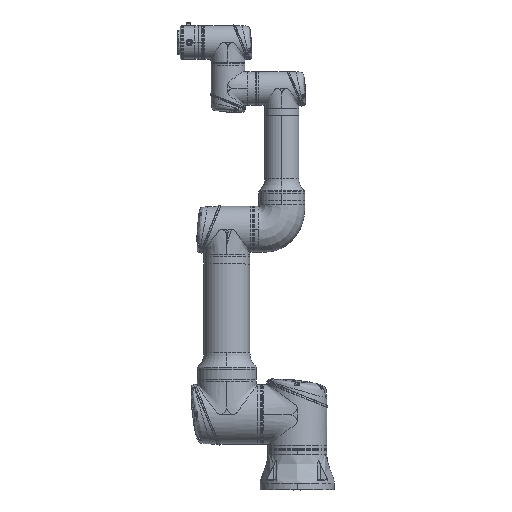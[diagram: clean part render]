
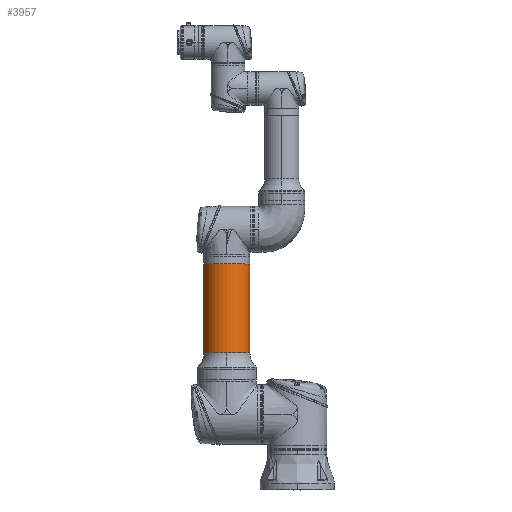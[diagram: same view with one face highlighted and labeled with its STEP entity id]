
A CAD part, top view. The second image highlights one B-rep face of the part: STEP entity #3957.
In plain terms, the highlighted cylindrical face has radius 59 mm (diameter 118 mm), a partial arc.
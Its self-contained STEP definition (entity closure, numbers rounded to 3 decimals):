
#371 = DIRECTION ( 'NONE',  ( 0., 1., 0. ) ) ;
#3957 = ADVANCED_FACE ( 'NONE', ( #207276 ), #347358, .T. ) ;
#7668 = ORIENTED_EDGE ( 'NONE', *, *, #282182, .T. ) ;
#23638 = CARTESIAN_POINT ( 'NONE',  ( 386.1, 0., 0. ) ) ;
#28968 = CARTESIAN_POINT ( 'NONE',  ( 158.463, 0., 0. ) ) ;
#53050 = CARTESIAN_POINT ( 'NONE',  ( 386.1, 0., -59. ) ) ;
#59538 = CIRCLE ( 'NONE', #341512, 59. ) ;
#69003 = DIRECTION ( 'NONE',  ( 0., 1., 0. ) ) ;
#78338 = EDGE_CURVE ( 'NONE', #139094, #423366, #59538, .T. ) ;
#78884 = VERTEX_POINT ( 'NONE', #53050 ) ;
#87270 = CARTESIAN_POINT ( 'NONE',  ( 562.7, 0., -59. ) ) ;
#97656 = DIRECTION ( 'NONE',  ( 1., 0., 0. ) ) ;
#100712 = DIRECTION ( 'NONE',  ( 1., 0., 0. ) ) ;
#105531 = LINE ( 'NONE', #305533, #202263 ) ;
#114733 = AXIS2_PLACEMENT_3D ( 'NONE', #23638, #297709, #398668 ) ;
#133635 = VERTEX_POINT ( 'NONE', #155698 ) ;
#134333 = DIRECTION ( 'NONE',  ( 1., 0., 0. ) ) ;
#139094 = VERTEX_POINT ( 'NONE', #423907 ) ;
#155698 = CARTESIAN_POINT ( 'NONE',  ( 158.463, 0., -59. ) ) ;
#170814 = VECTOR ( 'NONE', #275587, 1000. ) ;
#172104 = CARTESIAN_POINT ( 'NONE',  ( 562.7, 0., 0. ) ) ;
#180107 = CIRCLE ( 'NONE', #383306, 59. ) ;
#202263 = VECTOR ( 'NONE', #100712, 1000. ) ;
#207271 = CARTESIAN_POINT ( 'NONE',  ( 386.1, 0., 59. ) ) ;
#207276 = FACE_OUTER_BOUND ( 'NONE', #439182, .T. ) ;
#212081 = CARTESIAN_POINT ( 'NONE',  ( 158.463, 0., 59. ) ) ;
#218412 = EDGE_CURVE ( 'NONE', #78884, #348943, #353065, .T. ) ;
#232697 = EDGE_CURVE ( 'NONE', #423366, #348943, #105531, .T. ) ;
#260718 = EDGE_CURVE ( 'NONE', #133635, #78884, #386504, .T. ) ;
#262262 = ORIENTED_EDGE ( 'NONE', *, *, #218412, .F. ) ;
#274595 = DIRECTION ( 'NONE',  ( 0., 0., -1. ) ) ;
#275587 = DIRECTION ( 'NONE',  ( 1., 0., 0. ) ) ;
#282182 = EDGE_CURVE ( 'NONE', #133635, #139094, #180107, .T. ) ;
#297709 = DIRECTION ( 'NONE',  ( 1., 0., 0. ) ) ;
#305533 = CARTESIAN_POINT ( 'NONE',  ( 562.7, 0., 59. ) ) ;
#336485 = ORIENTED_EDGE ( 'NONE', *, *, #232697, .T. ) ;
#341512 = AXIS2_PLACEMENT_3D ( 'NONE', #341629, #97656, #69003 ) ;
#341629 = CARTESIAN_POINT ( 'NONE',  ( 158.463, 0., 0. ) ) ;
#347358 = CYLINDRICAL_SURFACE ( 'NONE', #356059, 59. ) ;
#348943 = VERTEX_POINT ( 'NONE', #207271 ) ;
#353065 = CIRCLE ( 'NONE', #114733, 59. ) ;
#356059 = AXIS2_PLACEMENT_3D ( 'NONE', #172104, #378573, #274595 ) ;
#378573 = DIRECTION ( 'NONE',  ( 1., 0., 0. ) ) ;
#383306 = AXIS2_PLACEMENT_3D ( 'NONE', #28968, #134333, #371 ) ;
#384148 = ORIENTED_EDGE ( 'NONE', *, *, #78338, .T. ) ;
#385753 = ORIENTED_EDGE ( 'NONE', *, *, #260718, .F. ) ;
#386504 = LINE ( 'NONE', #87270, #170814 ) ;
#398668 = DIRECTION ( 'NONE',  ( 0., 0., -1. ) ) ;
#423366 = VERTEX_POINT ( 'NONE', #212081 ) ;
#423907 = CARTESIAN_POINT ( 'NONE',  ( 158.463, 59., 0. ) ) ;
#439182 = EDGE_LOOP ( 'NONE', ( #7668, #384148, #336485, #262262, #385753 ) ) ;
